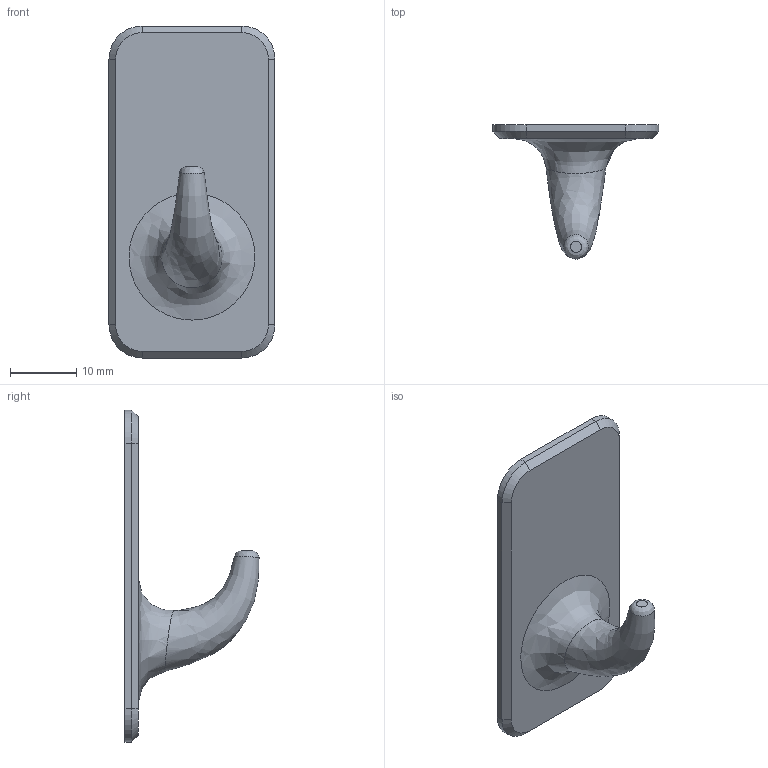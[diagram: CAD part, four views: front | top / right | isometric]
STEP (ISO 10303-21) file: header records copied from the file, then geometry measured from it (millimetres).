
FILE_DESCRIPTION(/* description */ ('','CAx-IF Rec.Pracs.---Representation and Presentation of Product Manufacturing Information (PMI)---4.0---2014-10-13'),/* implementation_level */ '2;1');
FILE_NAME(/* name */ 'Kitchenhanger v2.step',/* time_stamp */ '2025-01-01T17:09:03+01:00',/* author */ (''),/* organization */ (''),/* preprocessor_version */ 'ST-DEVELOPER v20',/* originating_system */ 'Autodesk Translation Framework v13.20.0.188',/* authorisation */ '');
FILE_SCHEMA (('AP242_MANAGED_MODEL_BASED_3D_ENGINEERING_MIM_LF { 1 0 10303 442 1 1 4 }'));
Length unit declared in the file: millimetre
Products named in the file (1): Kitchenhanger
Bounding box: 25 x 20.19 x 50 mm (x, y, z)
Volume: 3383.4 mm3; surface area: 3176.6 mm2
Topology: 1 solids, 1 shells, 25 faces, 56 edges, 34 vertices
Faces by surface type: plane 11, cone 6, cylinder 5, bspline 3
Full cylindrical faces by diameter (mm): 3.5 x1
Entity records: 1101 total; most frequent: CARTESIAN_POINT 524, DIRECTION 111, ORIENTED_EDGE 110, EDGE_CURVE 55, AXIS2_PLACEMENT_3D 40, VERTEX_POINT 34, LINE 31, VECTOR 31
